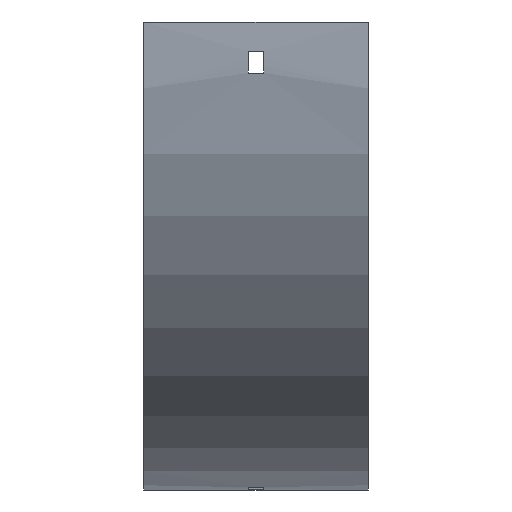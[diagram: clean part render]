
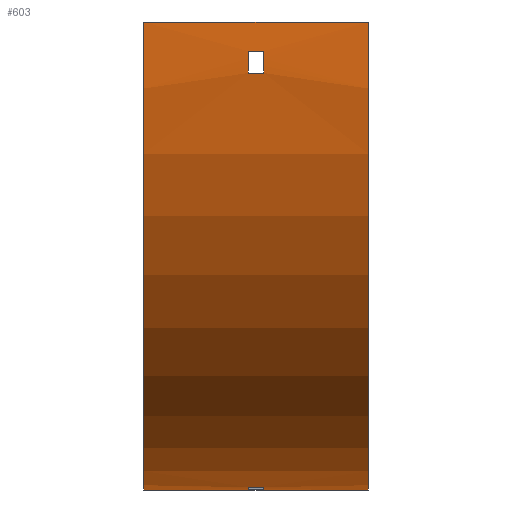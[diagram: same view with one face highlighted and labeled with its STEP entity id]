
A CAD part, front view. The second image highlights one B-rep face of the part: STEP entity #603.
In plain terms, the highlighted cylindrical face has radius 192.5 mm (diameter 385 mm), a partial arc.
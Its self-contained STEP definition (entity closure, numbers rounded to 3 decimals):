
#19 = DIRECTION ( 'NONE',  ( 1., 0., 0. ) ) ;
#46 = CARTESIAN_POINT ( 'NONE',  ( 46.25, -91.351, -21. ) ) ;
#60 = ORIENTED_EDGE ( 'NONE', *, *, #777, .F. ) ;
#122 = DIRECTION ( 'NONE',  ( -1., 0., 0. ) ) ;
#129 = DIRECTION ( 'NONE',  ( 0., 0., -1. ) ) ;
#165 = AXIS2_PLACEMENT_3D ( 'NONE', #764, #1287, #1273 ) ;
#193 = CIRCLE ( 'NONE', #312, 192.5 ) ;
#203 = DIRECTION ( 'NONE',  ( 0., 0., 1. ) ) ;
#220 = LINE ( 'NONE', #388, #990 ) ;
#222 = DIRECTION ( 'NONE',  ( 0., 0., 1. ) ) ;
#242 = DIRECTION ( 'NONE',  ( -1., 0., 0. ) ) ;
#255 = AXIS2_PLACEMENT_3D ( 'NONE', #478, #1375, #203 ) ;
#262 = LINE ( 'NONE', #1427, #876 ) ;
#275 = DIRECTION ( 'NONE',  ( 0., 0., 1. ) ) ;
#277 = DIRECTION ( 'NONE',  ( 1., 0., 0. ) ) ;
#281 = EDGE_CURVE ( 'NONE', #1553, #1151, #548, .T. ) ;
#298 = VERTEX_POINT ( 'NONE', #409 ) ;
#312 = AXIS2_PLACEMENT_3D ( 'NONE', #1610, #242, #222 ) ;
#314 = EDGE_CURVE ( 'NONE', #1606, #1304, #334, .T. ) ;
#329 = CARTESIAN_POINT ( 'NONE',  ( 46.25, -92.5, 0. ) ) ;
#331 = VERTEX_POINT ( 'NONE', #479 ) ;
#334 = LINE ( 'NONE', #592, #1199 ) ;
#346 = FACE_BOUND ( 'NONE', #443, .T. ) ;
#354 = CARTESIAN_POINT ( 'NONE',  ( -3.25, -92.126, -12. ) ) ;
#358 = ORIENTED_EDGE ( 'NONE', *, *, #281, .T. ) ;
#382 = EDGE_LOOP ( 'NONE', ( #1006, #866, #824, #358 ) ) ;
#388 = CARTESIAN_POINT ( 'NONE',  ( 46.25, 79., -191.351 ) ) ;
#401 = VERTEX_POINT ( 'NONE', #611 ) ;
#409 = CARTESIAN_POINT ( 'NONE',  ( -3.25, -91.351, -21. ) ) ;
#416 = VECTOR ( 'NONE', #601, 1000. ) ;
#418 = VECTOR ( 'NONE', #716, 1000. ) ;
#443 = EDGE_LOOP ( 'NONE', ( #60, #908, #736, #1048 ) ) ;
#448 = EDGE_LOOP ( 'NONE', ( #1568, #1662, #596, #1454 ) ) ;
#461 = DIRECTION ( 'NONE',  ( -1., 0., 0. ) ) ;
#478 = CARTESIAN_POINT ( 'NONE',  ( 46.25, 100., 0. ) ) ;
#479 = CARTESIAN_POINT ( 'NONE',  ( -46.25, -92.5, 0. ) ) ;
#485 = EDGE_CURVE ( 'NONE', #1151, #298, #1230, .T. ) ;
#548 = CIRCLE ( 'NONE', #1017, 192.5 ) ;
#553 = CIRCLE ( 'NONE', #1500, 192.5 ) ;
#592 = CARTESIAN_POINT ( 'NONE',  ( 46.25, 100., -192.5 ) ) ;
#594 = CARTESIAN_POINT ( 'NONE',  ( -3.25, 100., 0. ) ) ;
#596 = ORIENTED_EDGE ( 'NONE', *, *, #1299, .F. ) ;
#601 = DIRECTION ( 'NONE',  ( 1., 0., 0. ) ) ;
#603 = ADVANCED_FACE ( 'NONE', ( #626, #1666, #346 ), #849, .T. ) ;
#606 = VERTEX_POINT ( 'NONE', #354 ) ;
#611 = CARTESIAN_POINT ( 'NONE',  ( -3.25, 88., -192.126 ) ) ;
#626 = FACE_OUTER_BOUND ( 'NONE', #448, .T. ) ;
#638 = CARTESIAN_POINT ( 'NONE',  ( 46.25, -92.126, -12. ) ) ;
#643 = DIRECTION ( 'NONE',  ( -1., 0., 0. ) ) ;
#652 = CARTESIAN_POINT ( 'NONE',  ( -46.25, 100., -192.5 ) ) ;
#660 = CARTESIAN_POINT ( 'NONE',  ( 3.25, 79., -191.351 ) ) ;
#678 = DIRECTION ( 'NONE',  ( 0., 0., -1. ) ) ;
#684 = CIRCLE ( 'NONE', #165, 192.5 ) ;
#716 = DIRECTION ( 'NONE',  ( -1., 0., 0. ) ) ;
#735 = EDGE_CURVE ( 'NONE', #1235, #977, #220, .T. ) ;
#736 = ORIENTED_EDGE ( 'NONE', *, *, #778, .F. ) ;
#743 = CARTESIAN_POINT ( 'NONE',  ( 3.25, 88., -192.126 ) ) ;
#764 = CARTESIAN_POINT ( 'NONE',  ( -46.25, 100., 0. ) ) ;
#777 = EDGE_CURVE ( 'NONE', #977, #401, #1200, .T. ) ;
#778 = EDGE_CURVE ( 'NONE', #809, #1235, #193, .T. ) ;
#781 = CARTESIAN_POINT ( 'NONE',  ( 46.25, -92.5, 0. ) ) ;
#798 = CARTESIAN_POINT ( 'NONE',  ( -3.25, 100., 0. ) ) ;
#799 = DIRECTION ( 'NONE',  ( -1., 0., 0. ) ) ;
#809 = VERTEX_POINT ( 'NONE', #743 ) ;
#824 = ORIENTED_EDGE ( 'NONE', *, *, #1518, .T. ) ;
#849 = CYLINDRICAL_SURFACE ( 'NONE', #255, 192.5 ) ;
#866 = ORIENTED_EDGE ( 'NONE', *, *, #1631, .T. ) ;
#876 = VECTOR ( 'NONE', #19, 1000. ) ;
#908 = ORIENTED_EDGE ( 'NONE', *, *, #735, .F. ) ;
#928 = AXIS2_PLACEMENT_3D ( 'NONE', #594, #970, #1506 ) ;
#970 = DIRECTION ( 'NONE',  ( 1., 0., 0. ) ) ;
#977 = VERTEX_POINT ( 'NONE', #1492 ) ;
#986 = VERTEX_POINT ( 'NONE', #329 ) ;
#990 = VECTOR ( 'NONE', #643, 1000. ) ;
#1006 = ORIENTED_EDGE ( 'NONE', *, *, #485, .T. ) ;
#1017 = AXIS2_PLACEMENT_3D ( 'NONE', #1332, #277, #678 ) ;
#1025 = CARTESIAN_POINT ( 'NONE',  ( 3.25, -91.351, -21. ) ) ;
#1048 = ORIENTED_EDGE ( 'NONE', *, *, #1588, .F. ) ;
#1070 = LINE ( 'NONE', #781, #1340 ) ;
#1151 = VERTEX_POINT ( 'NONE', #1025 ) ;
#1162 = CARTESIAN_POINT ( 'NONE',  ( 46.25, 100., -192.5 ) ) ;
#1164 = EDGE_CURVE ( 'NONE', #331, #1304, #684, .T. ) ;
#1199 = VECTOR ( 'NONE', #461, 1000. ) ;
#1200 = CIRCLE ( 'NONE', #928, 192.5 ) ;
#1230 = LINE ( 'NONE', #46, #418 ) ;
#1235 = VERTEX_POINT ( 'NONE', #660 ) ;
#1270 = LINE ( 'NONE', #638, #416 ) ;
#1273 = DIRECTION ( 'NONE',  ( 0., 0., -1. ) ) ;
#1282 = EDGE_CURVE ( 'NONE', #986, #331, #1070, .T. ) ;
#1287 = DIRECTION ( 'NONE',  ( 1., 0., 0. ) ) ;
#1299 = EDGE_CURVE ( 'NONE', #986, #1606, #553, .T. ) ;
#1303 = DIRECTION ( 'NONE',  ( 1., 0., 0. ) ) ;
#1304 = VERTEX_POINT ( 'NONE', #652 ) ;
#1332 = CARTESIAN_POINT ( 'NONE',  ( 3.25, 100., 0. ) ) ;
#1340 = VECTOR ( 'NONE', #799, 1000. ) ;
#1375 = DIRECTION ( 'NONE',  ( -1., 0., 0. ) ) ;
#1425 = CARTESIAN_POINT ( 'NONE',  ( 46.25, 100., 0. ) ) ;
#1427 = CARTESIAN_POINT ( 'NONE',  ( 46.25, 88., -192.126 ) ) ;
#1454 = ORIENTED_EDGE ( 'NONE', *, *, #1282, .T. ) ;
#1492 = CARTESIAN_POINT ( 'NONE',  ( -3.25, 79., -191.351 ) ) ;
#1500 = AXIS2_PLACEMENT_3D ( 'NONE', #1425, #1303, #129 ) ;
#1503 = CIRCLE ( 'NONE', #1550, 192.5 ) ;
#1506 = DIRECTION ( 'NONE',  ( 0., 1., 0. ) ) ;
#1518 = EDGE_CURVE ( 'NONE', #606, #1553, #1270, .T. ) ;
#1550 = AXIS2_PLACEMENT_3D ( 'NONE', #798, #122, #275 ) ;
#1553 = VERTEX_POINT ( 'NONE', #1641 ) ;
#1568 = ORIENTED_EDGE ( 'NONE', *, *, #1164, .T. ) ;
#1588 = EDGE_CURVE ( 'NONE', #401, #809, #262, .T. ) ;
#1606 = VERTEX_POINT ( 'NONE', #1162 ) ;
#1610 = CARTESIAN_POINT ( 'NONE',  ( 3.25, 100., 0. ) ) ;
#1631 = EDGE_CURVE ( 'NONE', #298, #606, #1503, .T. ) ;
#1641 = CARTESIAN_POINT ( 'NONE',  ( 3.25, -92.126, -12. ) ) ;
#1662 = ORIENTED_EDGE ( 'NONE', *, *, #314, .F. ) ;
#1666 = FACE_BOUND ( 'NONE', #382, .T. ) ;
